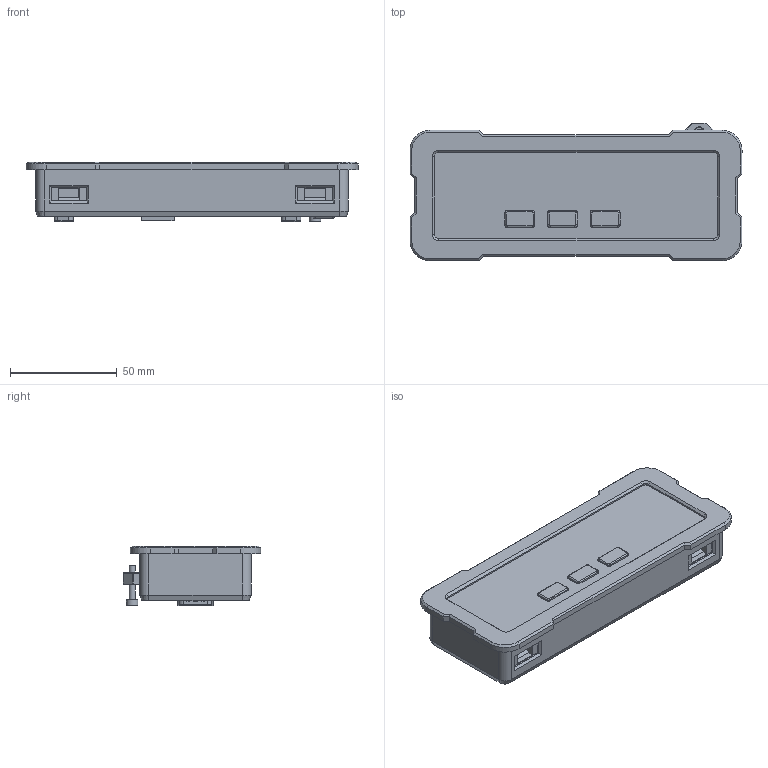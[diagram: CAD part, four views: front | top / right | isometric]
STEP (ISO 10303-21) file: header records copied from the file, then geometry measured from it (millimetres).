
FILE_DESCRIPTION(/* description */ (''),/* implementation_level */ '2;1');
FILE_NAME(/* name */ 'BC03_PANELOVA_PREDVADECI.step',/* time_stamp */ '2023-11-14T17:02:39+01:00',/* author */ (''),/* organization */ (''),/* preprocessor_version */ 'ST-DEVELOPER v20',/* originating_system */ 'Autodesk Translation Framework v12.14.0.127',/* authorisation */ '');
FILE_SCHEMA (('AUTOMOTIVE_DESIGN { 1 0 10303 214 3 1 1 }'));
Products named in the file (1): BC03_PANELOVA_PREDVADECI
Bounding box: 155.7 x 64.5 x 27.99 mm (x, y, z)
Volume: 158559.3 mm3; surface area: 66528.2 mm2
Topology: 1 solids, 7 shells, 2237 faces, 5753 edges, 3621 vertices
Faces by surface type: plane 873, cylinder 598, bspline 456, torus 177, cone 67, sphere 66
Full cylindrical faces by diameter (mm): 0.84 x18, 1.04 x18, 1.14 x18, 1.7 x4, 1.8 x2, 2.15 x4, 2.2 x6, 2.25 x2, 2.927 x2, 3 x2, 3.1 x4, 3.5 x4, 4.4 x5, 5.4 x1
Entity records: 88731 total; most frequent: CARTESIAN_POINT 36863, ORIENTED_EDGE 11406, DIRECTION 9791, EDGE_CURVE 5703, VERTEX_POINT 3621, AXIS2_PLACEMENT_3D 3394, LINE 3003, VECTOR 3003
